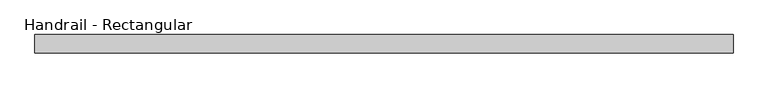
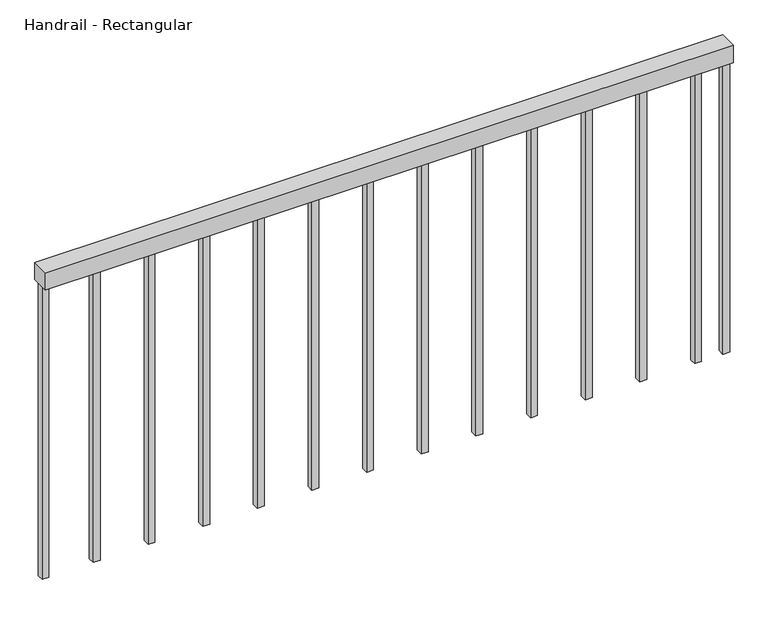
"""IFC4 building model written with IfcOpenShell, lengths in millimetres: railing geometry, Handrail - Rectangular."""

from ifc_helpers import new_model, si_unit, frame, origin, place, context, project, spatial, polyline, outline, extrude, source, transform, mapped, element, save


def handrail_rectangular_3cb95b5f(model_context):
    return source(origin(), model_context, "Body", "SweptSolid", [
        extrude(outline(polyline([(-15251.0839563, 6585.4316867), (-15251.0839563, 6636.2316867), (-13333.3839563, 6636.2316867), (-13333.3839563, 6585.4316867), (-15251.0839563, 6585.4316867)])), frame((0.0, 0.0, 10007.6), z_axis=(0.0, 0.0, 1.0), x_axis=(1.0, 0.0, 0.0)), (0.0, 0.0, 1.0), 50.8),
        extrude(outline(polyline([(-13431.8089563, 6601.3066867), (-13431.8089563, 6620.3566867), (-13412.7589563, 6620.3566867), (-13412.7589563, 6601.3066867), (-13431.8089563, 6601.3066867)])), frame((0.0, 0.0, 9144.0), z_axis=(0.0, 0.0, 1.0), x_axis=(1.0, 0.0, 0.0)), (0.0, 0.0, 1.0), 863.6),
        extrude(outline(polyline([(-13584.2089563, 6601.3066867), (-13584.2089563, 6620.3566867), (-13565.1589563, 6620.3566867), (-13565.1589563, 6601.3066867), (-13584.2089563, 6601.3066867)])), frame((0.0, 0.0, 9144.0), z_axis=(0.0, 0.0, 1.0), x_axis=(1.0, 0.0, 0.0)), (0.0, 0.0, 1.0), 863.6),
        extrude(outline(polyline([(-13736.6089563, 6601.3066867), (-13736.6089563, 6620.3566867), (-13717.5589563, 6620.3566867), (-13717.5589563, 6601.3066867), (-13736.6089563, 6601.3066867)])), frame((0.0, 0.0, 9144.0), z_axis=(0.0, 0.0, 1.0), x_axis=(1.0, 0.0, 0.0)), (0.0, 0.0, 1.0), 863.6),
        extrude(outline(polyline([(-13889.0089563, 6601.3066867), (-13889.0089563, 6620.3566867), (-13869.9589563, 6620.3566867), (-13869.9589563, 6601.3066867), (-13889.0089563, 6601.3066867)])), frame((0.0, 0.0, 9144.0), z_axis=(0.0, 0.0, 1.0), x_axis=(1.0, 0.0, 0.0)), (0.0, 0.0, 1.0), 863.6),
        extrude(outline(polyline([(-14041.4089563, 6601.3066867), (-14041.4089563, 6620.3566867), (-14022.3589563, 6620.3566867), (-14022.3589563, 6601.3066867), (-14041.4089563, 6601.3066867)])), frame((0.0, 0.0, 9144.0), z_axis=(0.0, 0.0, 1.0), x_axis=(1.0, 0.0, 0.0)), (0.0, 0.0, 1.0), 863.6),
        extrude(outline(polyline([(-14193.8089563, 6601.3066867), (-14193.8089563, 6620.3566867), (-14174.7589563, 6620.3566867), (-14174.7589563, 6601.3066867), (-14193.8089563, 6601.3066867)])), frame((0.0, 0.0, 9144.0), z_axis=(0.0, 0.0, 1.0), x_axis=(1.0, 0.0, 0.0)), (0.0, 0.0, 1.0), 863.6),
        extrude(outline(polyline([(-14346.2089563, 6601.3066867), (-14346.2089563, 6620.3566867), (-14327.1589563, 6620.3566867), (-14327.1589563, 6601.3066867), (-14346.2089563, 6601.3066867)])), frame((0.0, 0.0, 9144.0), z_axis=(0.0, 0.0, 1.0), x_axis=(1.0, 0.0, 0.0)), (0.0, 0.0, 1.0), 863.6),
        extrude(outline(polyline([(-14498.6089563, 6601.3066867), (-14498.6089563, 6620.3566867), (-14479.5589563, 6620.3566867), (-14479.5589563, 6601.3066867), (-14498.6089563, 6601.3066867)])), frame((0.0, 0.0, 9144.0), z_axis=(0.0, 0.0, 1.0), x_axis=(1.0, 0.0, 0.0)), (0.0, 0.0, 1.0), 863.6),
        extrude(outline(polyline([(-14651.0089563, 6601.3066867), (-14651.0089563, 6620.3566867), (-14631.9589563, 6620.3566867), (-14631.9589563, 6601.3066867), (-14651.0089563, 6601.3066867)])), frame((0.0, 0.0, 9144.0), z_axis=(0.0, 0.0, 1.0), x_axis=(1.0, 0.0, 0.0)), (0.0, 0.0, 1.0), 863.6),
        extrude(outline(polyline([(-14803.4089563, 6601.3066867), (-14803.4089563, 6620.3566867), (-14784.3589563, 6620.3566867), (-14784.3589563, 6601.3066867), (-14803.4089563, 6601.3066867)])), frame((0.0, 0.0, 9144.0), z_axis=(0.0, 0.0, 1.0), x_axis=(1.0, 0.0, 0.0)), (0.0, 0.0, 1.0), 863.6),
        extrude(outline(polyline([(-14955.8089563, 6601.3066867), (-14955.8089563, 6620.3566867), (-14936.7589563, 6620.3566867), (-14936.7589563, 6601.3066867), (-14955.8089563, 6601.3066867)])), frame((0.0, 0.0, 9144.0), z_axis=(0.0, 0.0, 1.0), x_axis=(1.0, 0.0, 0.0)), (0.0, 0.0, 1.0), 863.6),
        extrude(outline(polyline([(-15108.2089563, 6601.3066867), (-15108.2089563, 6620.3566867), (-15089.1589563, 6620.3566867), (-15089.1589563, 6601.3066867), (-15108.2089563, 6601.3066867)])), frame((0.0, 0.0, 9144.0), z_axis=(0.0, 0.0, 1.0), x_axis=(1.0, 0.0, 0.0)), (0.0, 0.0, 1.0), 863.6),
        extrude(outline(polyline([(-13352.4339563, 6601.3066867), (-13352.4339563, 6620.3566867), (-13333.3839563, 6620.3566867), (-13333.3839563, 6601.3066867), (-13352.4339563, 6601.3066867)])), frame((0.0, 0.0, 9144.0), z_axis=(0.0, 0.0, 1.0), x_axis=(1.0, 0.0, 0.0)), (0.0, 0.0, 1.0), 863.6),
        extrude(outline(polyline([(-15251.0839563, 6601.3066867), (-15251.0839563, 6620.3566867), (-15232.0339563, 6620.3566867), (-15232.0339563, 6601.3066867), (-15251.0839563, 6601.3066867)])), frame((0.0, 0.0, 9144.0), z_axis=(0.0, 0.0, 1.0), x_axis=(1.0, 0.0, 0.0)), (0.0, 0.0, 1.0), 863.6),
    ])


if __name__ == "__main__":
    model = new_model("IFC4")
    model_context = context("Model", 3, world=origin())
    ifc_project = project(units=[si_unit("LENGTHUNIT", "METRE", prefix="MILLI")], contexts=[model_context])
    site = spatial("IfcSite", under=ifc_project)
    building = spatial("IfcBuilding", under=site)
    placement = place(None, origin())
    handrail_rectangular_shape = handrail_rectangular_3cb95b5f(model_context)
    element("IfcRailing", 1, ObjectType="Handrail - Rectangular", at=placement, inside=building, context=model_context, shape_type="MappedRepresentation", body=[
        mapped(handrail_rectangular_shape, transform((0.0, 0.0, 0.0), x_axis=(1.0, 0.0, 0.0), y_axis=(0.0, 1.0, 0.0), z_axis=(0.0, 0.0, 1.0))),
    ])
    save(model, "model.ifc")
